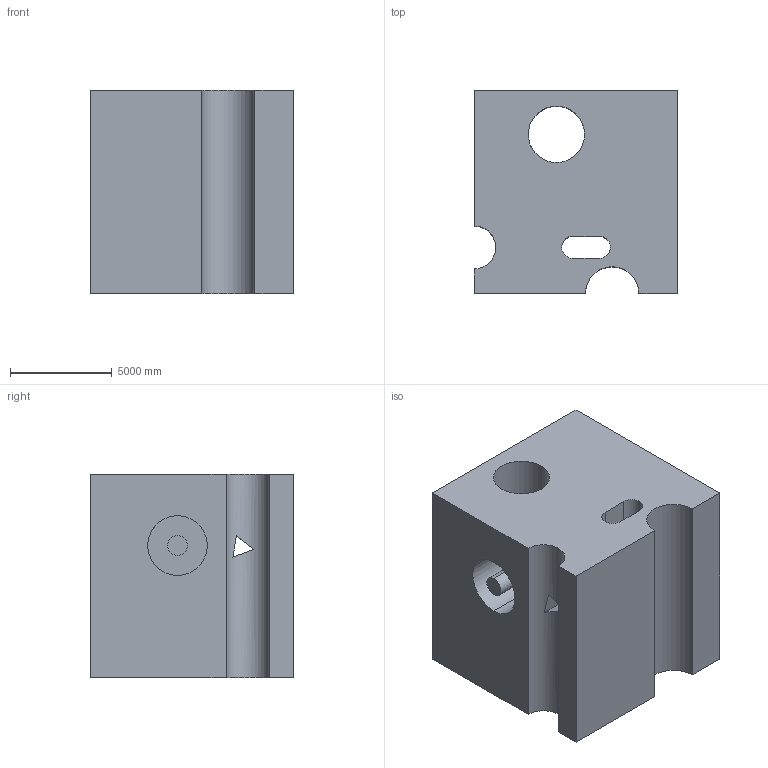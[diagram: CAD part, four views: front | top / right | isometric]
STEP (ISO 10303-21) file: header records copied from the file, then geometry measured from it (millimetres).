
FILE_DESCRIPTION (( 'STEP AP203' ), '1' );
FILE_NAME ('512.STEP', '2022-07-29T11:35:23', ( 'user' ), ( '' ), 'SwSTEP 2.0', 'SolidWorks 2021', '' );
FILE_SCHEMA (( 'CONFIG_CONTROL_DESIGN' ));
Length unit declared in the file: centimetre
Products named in the file (1): 512
Bounding box: 10000 x 10000 x 10000 mm (x, y, z)
Volume: 818678368479.4 mm3; surface area: 862599150 mm2
Topology: 1 solids, 1 shells, 29 faces, 83 edges, 56 vertices
Faces by surface type: plane 17, cylinder 12
Entity records: 1412 total; most frequent: CARTESIAN_POINT 566, ORIENTED_EDGE 166, DIRECTION 152, EDGE_CURVE 83, VERTEX_POINT 56, AXIS2_PLACEMENT_3D 52, VECTOR 48, LINE 48
